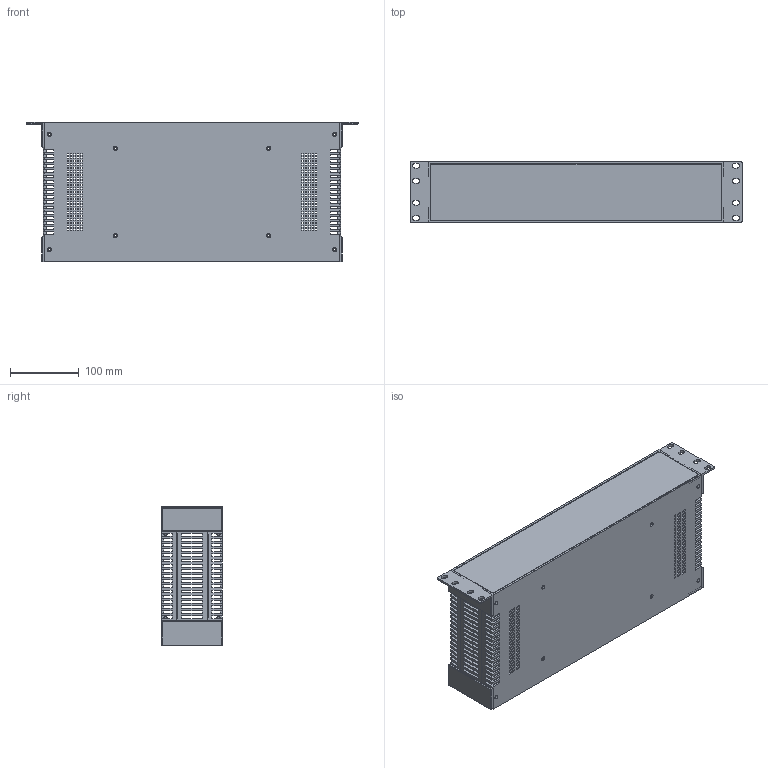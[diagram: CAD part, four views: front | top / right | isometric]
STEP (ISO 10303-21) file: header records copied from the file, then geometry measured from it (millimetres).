
FILE_DESCRIPTION (( 'STEP AP203' ), '1' );
FILE_NAME ('PM202.STEP', '2022-03-08T14:05:08', ( '' ), ( '' ), 'SwSTEP 2.0', 'SolidWorks 2021', '' );
FILE_SCHEMA (( 'CONFIG_CONTROL_DESIGN' ));
Length unit declared in the file: millimetre
Products named in the file (4): PM202
Assembly tree (6 placements, depth 2):
  PM202
    PM202  x2
    PM202  x2
    PM202  x2
Bounding box: 482.6 x 88 x 203.3 mm (x, y, z)
Volume: 931719.8 mm3; surface area: 641239 mm2
Topology: 6 solids, 6 shells, 3082 faces, 9324 edges, 6188 vertices
Faces by surface type: plane 2734, cylinder 284, cone 48, sphere 16
Entity records: 53110 total; most frequent: CARTESIAN_POINT 9328, ORIENTED_EDGE 9308, DIRECTION 8080, EDGE_CURVE 4654, VECTOR 4308, LINE 4308, VERTEX_POINT 3094, EDGE_LOOP 2118
